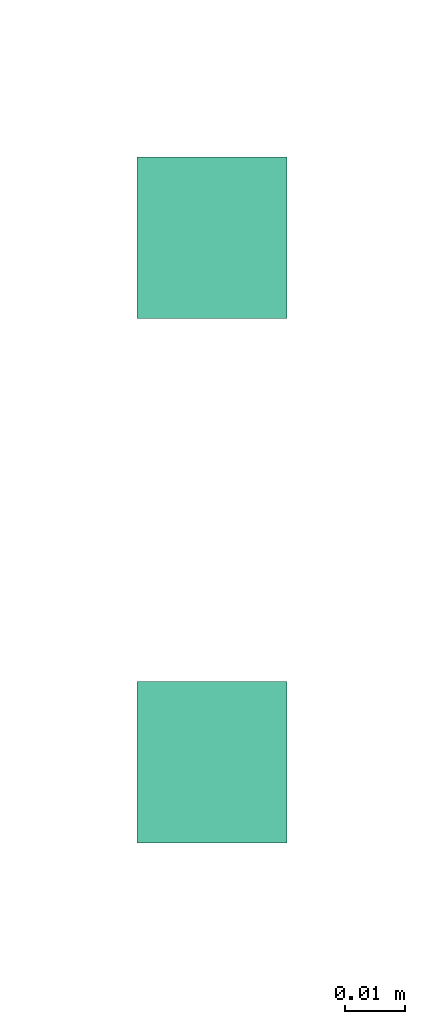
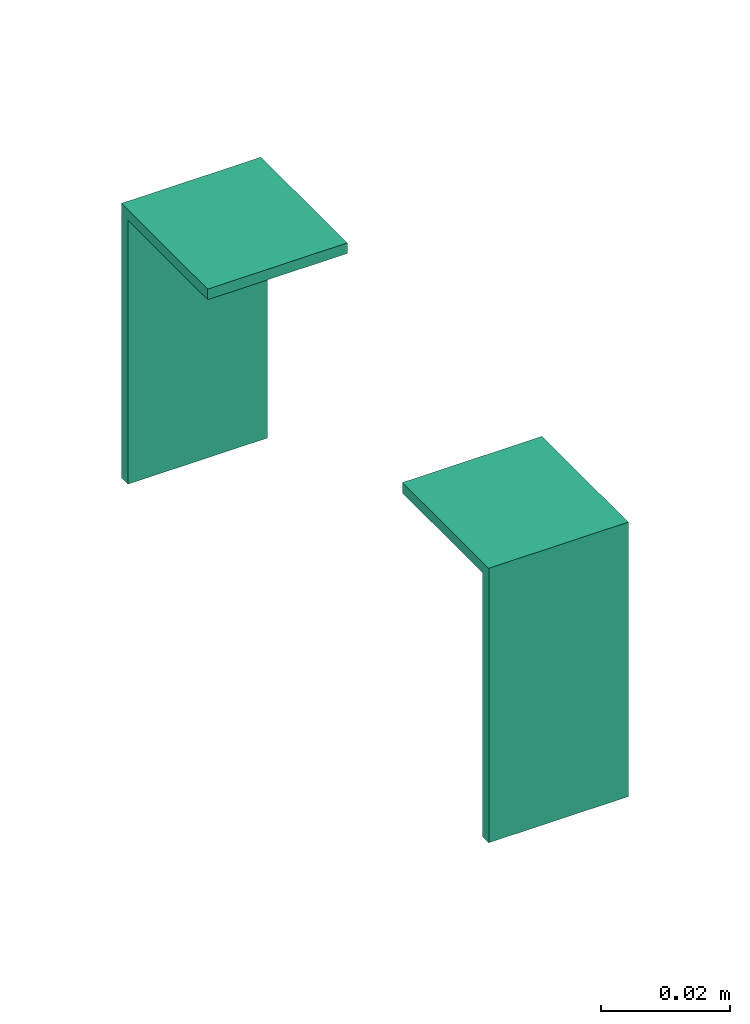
# One storey, part 13 of 87: 1 flow fitting.
"""IFC2X3 building model written with IfcOpenShell, lengths in millimetres."""

from ifc_helpers import new_model, entity, si_unit, converted_unit, derived_unit, direction, frame, origin, place, context, subcontext, project, spatial, polyline, outline, extrude, source, transform, mapped, material, type_object, type_shapes, element, save


model = new_model("IFC2X3")

# Units and contexts
model_context = context("Model", 3, precision=0.01, world=origin(), true_north=direction((6.12303176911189e-17, 1.0)))
body_context = subcontext(model_context, "Body", "Model", "MODEL_VIEW")
ifc_project = project(units=[si_unit("LENGTHUNIT", "METRE", prefix="MILLI"), si_unit("AREAUNIT", "SQUARE_METRE"), si_unit("VOLUMEUNIT", "CUBIC_METRE"), converted_unit("PLANEANGLEUNIT", "DEGREE", entity("IfcRatioMeasure", 0.0174532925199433), si_unit("PLANEANGLEUNIT", "RADIAN"), dimensions=[0, 0, 0, 0, 0, 0, 0]), si_unit("MASSUNIT", "GRAM", prefix="KILO"), derived_unit("MASSDENSITYUNIT", [(si_unit("MASSUNIT", "GRAM", prefix="KILO"), 1), (si_unit("LENGTHUNIT", "METRE"), -3)]), si_unit("TIMEUNIT", "SECOND"), si_unit("FREQUENCYUNIT", "HERTZ"), si_unit("THERMODYNAMICTEMPERATUREUNIT", "DEGREE_CELSIUS"), derived_unit("THERMALTRANSMITTANCEUNIT", [(si_unit("MASSUNIT", "GRAM", prefix="KILO"), 1), (si_unit("THERMODYNAMICTEMPERATUREUNIT", "KELVIN"), -1), (si_unit("TIMEUNIT", "SECOND"), -3)]), derived_unit("VOLUMETRICFLOWRATEUNIT", [(si_unit("LENGTHUNIT", "METRE"), 3), (si_unit("TIMEUNIT", "SECOND"), -1)]), si_unit("ELECTRICCURRENTUNIT", "AMPERE"), si_unit("ELECTRICVOLTAGEUNIT", "VOLT"), si_unit("POWERUNIT", "WATT"), si_unit("FORCEUNIT", "NEWTON", prefix="KILO"), si_unit("ILLUMINANCEUNIT", "LUX"), si_unit("LUMINOUSFLUXUNIT", "LUMEN"), si_unit("LUMINOUSINTENSITYUNIT", "CANDELA"), derived_unit("USERDEFINED", [(si_unit("MASSUNIT", "GRAM", prefix="KILO"), -1), (si_unit("LENGTHUNIT", "METRE"), -2), (si_unit("TIMEUNIT", "SECOND"), 3), (si_unit("LUMINOUSFLUXUNIT", "LUMEN"), 1)]), derived_unit("LINEARVELOCITYUNIT", [(si_unit("LENGTHUNIT", "METRE"), 1), (si_unit("TIMEUNIT", "SECOND"), -1)]), si_unit("PRESSUREUNIT", "PASCAL"), derived_unit("USERDEFINED", [(si_unit("LENGTHUNIT", "METRE"), -2), (si_unit("MASSUNIT", "GRAM", prefix="KILO"), 1), (si_unit("TIMEUNIT", "SECOND"), -2)])], contexts=[model_context])

# Site, building, storey
site_placement = place(None, origin())
site = spatial("IfcSite", under=ifc_project, at=site_placement, Name="Default", CompositionType="ELEMENT")
building_placement = place(site_placement, origin())
building = spatial("IfcBuilding", under=site, at=building_placement, Name="Наименование здания", CompositionType="ELEMENT")
storey_placement = place(building_placement, origin())
storey = spatial("IfcBuildingStorey", under=building, at=storey_placement, Name="Этаж 01", CompositionType="ELEMENT", Elevation=0.0)

# Flow fitting
ifc_material = material(Name="DKC_Пластик_Серо-черный")
cable_carrier_fitting_type = type_object("IfcCableCarrierFittingType", Name="Черный", PredefinedType="NOTDEFINED", material=ifc_material)
shared_shape = source(origin(), body_context, "Body", "SweptSolid", [
    extrude(outline(polyline([(-34.0, -9.60000000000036), (18.0, -9.60000000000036), (18.0, 17.2000000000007), (16.0, 17.2000000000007), (16.0, -7.60000000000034), (-34.0, -7.60000000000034), (-34.0, -9.60000000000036)])), frame((-12.4999999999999, 47.4000000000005, 9.0), z_axis=(1.0, 0.0, 0.0), x_axis=(0.0, 0.0, 1.0)), (0.0, 0.0, 1.0), 25.0),
    extrude(outline(polyline([(-9.59999999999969, -34.0), (-7.60000000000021, -34.0), (-7.60000000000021, 16.0), (17.1999999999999, 16.0), (17.1999999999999, 18.0), (-9.59999999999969, 18.0), (-9.59999999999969, -34.0)])), frame((-12.5000000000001, -47.3999999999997, 9.0), z_axis=(1.0, 0.0, 0.0), x_axis=(0.0, 1.0, 0.0)), (0.0, 0.0, 1.0), 25.0),
])
type_shapes(cable_carrier_fitting_type, [shared_shape])
flow_fitting_placement = place(storey_placement, frame((15123.6289354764, -1107.87796756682, 0.0)))
element("IfcFlowFitting", 1, at=flow_fitting_placement, inside=storey, type_object=cable_carrier_fitting_type, material=ifc_material, Name="КНС_НакладкаНаСтыкПрофилейКоробов_ILF_DKC:Черный", ObjectType="Черный", context=body_context, shape_type="MappedRepresentation", body=[
    mapped(shared_shape, transform((0.0, 0.0, 0.0), scale=1.0)),
])

save(model, "model.ifc")
